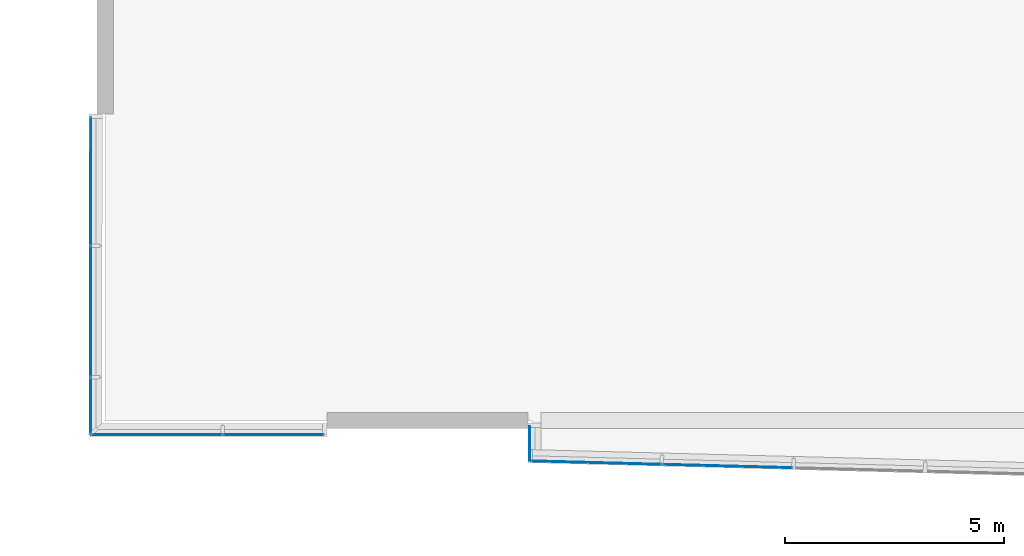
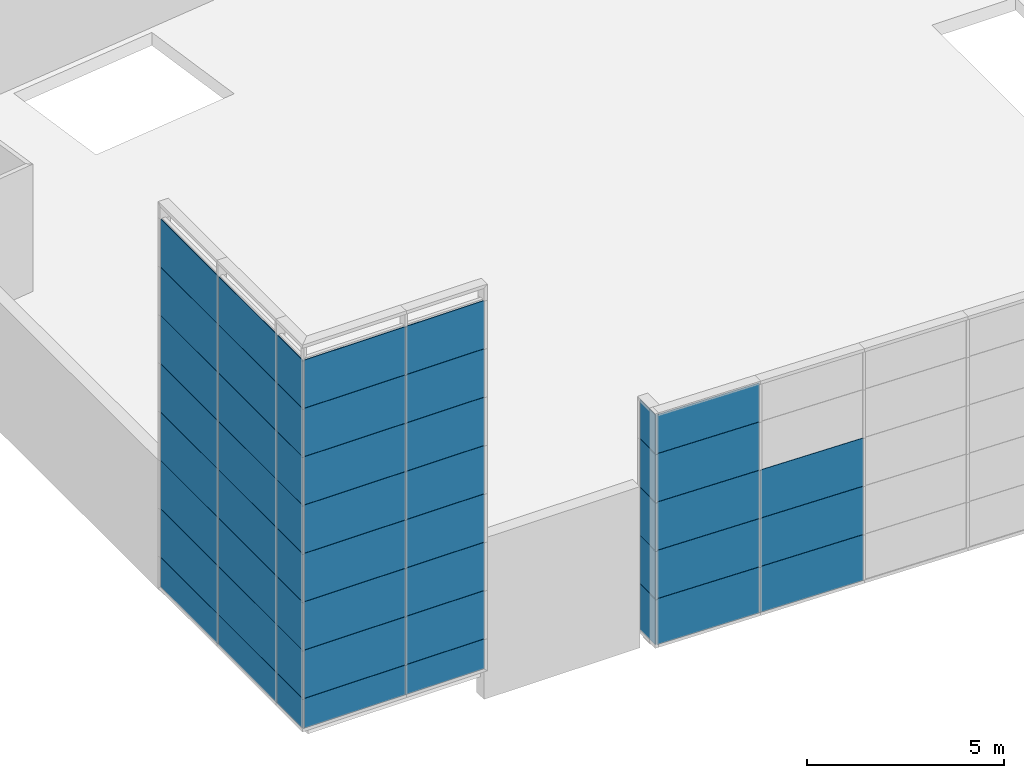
# One storey, part 14 of 27: 53 plates, 3 elements without a shape of their own.
"""IFC2X3 building model written with IfcOpenShell, lengths in metres."""

from ifc_helpers import new_model, entity, si_unit, converted_unit, money_unit, direction, frame, origin_with_axes, place, context, subcontext, project, spatial, polyline, outline, extrude, material, type_object, element, aggregate, save


model = new_model("IFC2X3")

# Units and contexts
model_context = context("Model", 3, precision=1e-05, world=origin_with_axes(), true_north=direction((0.0, 1.0)))
body_context = subcontext(model_context, "Body", "Model", "MODEL_VIEW")
ifc_project = project(units=[si_unit("LENGTHUNIT", "METRE"), si_unit("AREAUNIT", "SQUARE_METRE"), si_unit("VOLUMEUNIT", "CUBIC_METRE"), converted_unit("PLANEANGLEUNIT", "DEGREE", entity("IfcPlaneAngleMeasure", 0.0174532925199), si_unit("PLANEANGLEUNIT", "RADIAN"), dimensions=[0, 0, 0, 0, 0, 0, 0]), si_unit("SOLIDANGLEUNIT", "STERADIAN"), money_unit("EUR"), converted_unit("TIMEUNIT", "Year", entity("IfcTimeMeasure", 31556926.0), si_unit("TIMEUNIT", "SECOND"), dimensions=[0, 0, 0, 0, 0, 0, 0]), si_unit("MASSUNIT", "GRAM"), si_unit("THERMODYNAMICTEMPERATUREUNIT", "DEGREE_CELSIUS"), si_unit("LUMINOUSINTENSITYUNIT", "LUMEN")], contexts=[model_context])

# Site, building, storey
site_placement = place(None, origin_with_axes())
site = spatial("IfcSite", under=ifc_project, at=site_placement, Name="Undefined", CompositionType="ELEMENT")
building_placement = place(site_placement, origin_with_axes())
building = spatial("IfcBuilding", under=site, at=building_placement, Name="Undefined", CompositionType="ELEMENT")
storey_placement = place(building_placement, frame((0.0, 0.0, 5.4), z_axis=(0.0, 0.0, 1.0), x_axis=(1.0, 0.0, 0.0)))
storey = spatial("IfcBuildingStorey", under=building, at=storey_placement, Name="R+1", CompositionType="ELEMENT", Elevation=5.4)

# Curtain wall, plates
curtain_wall_type = type_object("IfcCurtainWallType", Name="Type de mur-rideau", PredefinedType="NOTDEFINED")
curtain_wall_1_placement = place(storey_placement, frame((9.49999998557, -0.66969262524, -0.55), z_axis=(0.0, 0.0, 1.0), x_axis=(1.0, 0.0, 0.0)))
curtain_wall_1 = element("IfcCurtainWall", 1, at=curtain_wall_1_placement, inside=storey, type_object=curtain_wall_type, Name="CurtainWall_01", ObjectType="CURTAIN WALL")
ifc_material = material(Name="Background 7019220")
plate_type_1 = type_object("IfcPlateType", Name="Panneau secondaire 782 x 1425 x 20", PredefinedType="NOTDEFINED")
plate_1_placement = place(curtain_wall_1_placement, frame((0.0, 0.0, 0.75), z_axis=(0.0, 0.0, 1.0), x_axis=(3.3865186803e-08, 1.0, 0.0)))
plate_1 = element("IfcPlate", 2, at=plate_1_placement, type_object=plate_type_1, material=ifc_material, Name="Panel-Dist-637", context=body_context, shape_type="SweptSolid", body=[
    extrude(outline(polyline([(0.07, 0.07), (0.852231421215, 0.07), (0.852231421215, 1.495), (0.07, 1.495), (0.07, 0.07)])), frame((0.426115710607, 0.0, -0.75), z_axis=(0.0, 1.0, 0.0), x_axis=(-1.0, 0.0, 0.0)), (0.0, 0.0, 1.0), 0.02),
])
plate_type_2 = type_object("IfcPlateType", Name="Panneau principal 782 x 1490 x 20", PredefinedType="NOTDEFINED")
plate_2_placement = place(curtain_wall_1_placement, frame((0.0, 0.0, 2.25), z_axis=(0.0, 0.0, 1.0), x_axis=(3.3865186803e-08, 1.0, 0.0)))
plate_2 = element("IfcPlate", 3, at=plate_2_placement, type_object=plate_type_2, material=ifc_material, Name="Panel-Main-139", context=body_context, shape_type="SweptSolid", body=[
    extrude(outline(polyline([(0.07, 0.005), (0.852231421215, 0.005), (0.852231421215, 1.495), (0.07, 1.495), (0.07, 0.005)])), frame((0.426115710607, 0.0, -0.75), z_axis=(0.0, 1.0, 0.0), x_axis=(-1.0, 0.0, 0.0)), (0.0, 0.0, 1.0), 0.02),
])
plate_3_placement = place(curtain_wall_1_placement, frame((0.0, 0.0, 5.25), z_axis=(0.0, 0.0, 1.0), x_axis=(3.3865186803e-08, 1.0, 0.0)))
plate_3 = element("IfcPlate", 4, at=plate_3_placement, type_object=plate_type_2, material=ifc_material, Name="Panel-Main-139", context=body_context, shape_type="SweptSolid", body=[
    extrude(outline(polyline([(0.07, 0.005), (0.852231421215, 0.005), (0.852231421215, 1.495), (0.07, 1.495), (0.07, 0.005)])), frame((0.426115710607, 0.0, -0.75), z_axis=(0.0, 1.0, 0.0), x_axis=(-1.0, 0.0, 0.0)), (0.0, 0.0, 1.0), 0.02),
])
plate_type_3 = type_object("IfcPlateType", Name="Panneau secondaire 782 x 1490 x 20", PredefinedType="NOTDEFINED")
plate_4_placement = place(curtain_wall_1_placement, frame((0.0, 0.0, 3.75), z_axis=(0.0, 0.0, 1.0), x_axis=(3.3865186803e-08, 1.0, 0.0)))
plate_4 = element("IfcPlate", 5, at=plate_4_placement, type_object=plate_type_3, material=ifc_material, Name="Panel-Dist-637", context=body_context, shape_type="SweptSolid", body=[
    extrude(outline(polyline([(0.07, 0.005), (0.852231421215, 0.005), (0.852231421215, 1.495), (0.07, 1.495), (0.07, 0.005)])), frame((0.426115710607, 0.0, -0.75), z_axis=(0.0, 1.0, 0.0), x_axis=(-1.0, 0.0, 0.0)), (0.0, 0.0, 1.0), 0.02),
])
plate_type_4 = type_object("IfcPlateType", Name="Panneau secondaire 782 x 1200 x 20", PredefinedType="NOTDEFINED")
plate_5_placement = place(curtain_wall_1_placement, frame((0.0, 1.11758816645e-08, 6.63741383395), z_axis=(0.0, 0.0, 1.0), x_axis=(3.3865186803e-08, 1.0, 0.0)))
plate_5 = element("IfcPlate", 6, at=plate_5_placement, type_object=plate_type_4, material=ifc_material, Name="Panel-Dist-648", context=body_context, shape_type="SweptSolid", body=[
    extrude(outline(polyline([(0.07, 0.005), (0.852231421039, 0.005), (0.852231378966, 1.20482766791), (0.07, 1.20482766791), (0.07, 0.005)])), frame((0.426115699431, 0.0, -0.637413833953), z_axis=(0.0, 1.0, 0.0), x_axis=(-1.0, 0.0, 0.0)), (0.0, 0.0, 1.0), 0.02),
])
aggregate(curtain_wall_1, [plate_1, plate_2, plate_4, plate_3, plate_5])

curtain_wall_2_placement = place(storey_placement, frame((-0.508840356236, 0.150119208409, 0.0), z_axis=(0.0, 0.0, 1.0), x_axis=(1.0, 0.0, 0.0)))
curtain_wall_2 = element("IfcCurtainWall", 7, at=curtain_wall_2_placement, inside=storey, type_object=curtain_wall_type, Name="CurtainWall_01", ObjectType="CURTAIN WALL")
plate_type_5 = type_object("IfcPlateType", Name="Panneau secondaire 2295 x 925 x 20", PredefinedType="NOTDEFINED")
plate_6_placement = place(curtain_wall_2_placement, frame((4.18696825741, -0.650119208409, 0.500000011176), z_axis=(0.0, 0.0, 1.0), x_axis=(-1.0, 0.0, 0.0)))
plate_6 = element("IfcPlate", 8, at=plate_6_placement, type_object=plate_type_5, material=ifc_material, Name="Panel-Dist-111", context=body_context, shape_type="SweptSolid", body=[
    extrude(outline(polyline([(0.01, 0.569999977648), (2.30499991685, 0.569999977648), (2.30499999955, 1.495), (0.01, 1.495), (0.01, 0.569999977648)])), frame((1.18749997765, 0.0, -0.999999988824), z_axis=(0.0, 1.0, 0.0), x_axis=(-1.0, 0.0, 0.0)), (0.0, 0.0, 1.0), 0.02),
])
plate_type_6 = type_object("IfcPlateType", Name="Panneau principal 2920 x 1490 x 20", PredefinedType="NOTDEFINED")
plate_7_placement = place(curtain_wall_2_placement, frame((0.00684685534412, 5.15011523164, 1.75000002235), z_axis=(0.0, 0.0, 1.0), x_axis=(0.00132945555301, 0.999999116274, 0.0)))
plate_7 = element("IfcPlate", 9, at=plate_7_placement, type_object=plate_type_6, material=ifc_material, Name="Panel-Main-111", context=body_context, shape_type="SweptSolid", body=[
    extrude(outline(polyline([(0.07, 0.005), (2.99, 0.005), (2.99, 1.495), (0.07, 1.495), (0.07, 0.005)])), frame((1.5, 0.0, -0.75), z_axis=(0.0, 1.0, 0.0), x_axis=(-1.0, 0.0, 0.0)), (0.0, 0.0, 1.0), 0.02),
])
plate_8_placement = place(curtain_wall_2_placement, frame((0.00684685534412, 5.15011523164, 4.75000002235), z_axis=(0.0, 0.0, 1.0), x_axis=(0.00132945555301, 0.999999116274, 0.0)))
plate_8 = element("IfcPlate", 10, at=plate_8_placement, type_object=plate_type_6, material=ifc_material, Name="Panel-Main-114", context=body_context, shape_type="SweptSolid", body=[
    extrude(outline(polyline([(0.07, 0.005), (2.99, 0.005), (2.99, 1.495), (0.07, 1.495), (0.07, 0.005)])), frame((1.5, 0.0, -0.75), z_axis=(0.0, 1.0, 0.0), x_axis=(-1.0, 0.0, 0.0)), (0.0, 0.0, 1.0), 0.02),
])
plate_9_placement = place(curtain_wall_2_placement, frame((0.00684685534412, 5.15011523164, 7.75000002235), z_axis=(0.0, 0.0, 1.0), x_axis=(0.00132945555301, 0.999999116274, 0.0)))
plate_9 = element("IfcPlate", 11, at=plate_9_placement, type_object=plate_type_6, material=ifc_material, Name="Panel-Main-115", context=body_context, shape_type="SweptSolid", body=[
    extrude(outline(polyline([(0.07, 0.005), (2.99, 0.005), (2.99, 1.495), (0.07, 1.495), (0.07, 0.005)])), frame((1.5, 0.0, -0.75), z_axis=(0.0, 1.0, 0.0), x_axis=(-1.0, 0.0, 0.0)), (0.0, 0.0, 1.0), 0.02),
])
plate_10_placement = place(curtain_wall_2_placement, frame((0.00684685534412, 5.15011523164, 10.7500000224), z_axis=(0.0, 0.0, 1.0), x_axis=(0.00132945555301, 0.999999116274, 0.0)))
plate_10 = element("IfcPlate", 12, at=plate_10_placement, type_object=plate_type_6, material=ifc_material, Name="Panel-Main-116", context=body_context, shape_type="SweptSolid", body=[
    extrude(outline(polyline([(0.07, 0.005), (2.99, 0.005), (2.99, 1.495), (0.07, 1.495), (0.07, 0.005)])), frame((1.5, 0.0, -0.75), z_axis=(0.0, 1.0, 0.0), x_axis=(-1.0, 0.0, 0.0)), (0.0, 0.0, 1.0), 0.02),
])
plate_type_7 = type_object("IfcPlateType", Name="Panneau secondaire 2980 x 1490 x 20", PredefinedType="NOTDEFINED")
plate_11_placement = place(curtain_wall_2_placement, frame((0.00285848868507, 2.15011788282, 1.75000002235), z_axis=(0.0, 0.0, 1.0), x_axis=(0.00132945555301, 0.999999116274, 0.0)))
plate_11 = element("IfcPlate", 13, at=plate_11_placement, type_object=plate_type_7, material=ifc_material, Name="Panel-Dist-103", context=body_context, shape_type="SweptSolid", body=[
    extrude(outline(polyline([(0.01, 0.005), (2.99, 0.005), (2.99, 1.495), (0.01, 1.495), (0.01, 0.005)])), frame((1.5, 0.0, -0.75), z_axis=(0.0, 1.0, 0.0), x_axis=(-1.0, 0.0, 0.0)), (0.0, 0.0, 1.0), 0.02),
])
plate_12_placement = place(curtain_wall_2_placement, frame((0.00285848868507, 2.15011788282, 4.75000002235), z_axis=(0.0, 0.0, 1.0), x_axis=(0.00132945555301, 0.999999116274, 0.0)))
plate_12 = element("IfcPlate", 14, at=plate_12_placement, type_object=plate_type_7, material=ifc_material, Name="Panel-Dist-125", context=body_context, shape_type="SweptSolid", body=[
    extrude(outline(polyline([(0.01, 0.005), (2.99, 0.005), (2.99, 1.495), (0.01, 1.495), (0.01, 0.005)])), frame((1.5, 0.0, -0.75), z_axis=(0.0, 1.0, 0.0), x_axis=(-1.0, 0.0, 0.0)), (0.0, 0.0, 1.0), 0.02),
])
plate_13_placement = place(curtain_wall_2_placement, frame((0.00285848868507, 2.15011788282, 6.25000002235), z_axis=(0.0, 0.0, 1.0), x_axis=(0.00132945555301, 0.999999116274, 0.0)))
plate_13 = element("IfcPlate", 15, at=plate_13_placement, type_object=plate_type_7, material=ifc_material, Name="Panel-Dist-126", context=body_context, shape_type="SweptSolid", body=[
    extrude(outline(polyline([(0.01, 0.005), (2.99, 0.005), (2.99, 1.495), (0.01, 1.495), (0.01, 0.005)])), frame((1.5, 0.0, -0.75), z_axis=(0.0, 1.0, 0.0), x_axis=(-1.0, 0.0, 0.0)), (0.0, 0.0, 1.0), 0.02),
])
plate_14_placement = place(curtain_wall_2_placement, frame((0.00285848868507, 2.15011788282, 7.75000002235), z_axis=(0.0, 0.0, 1.0), x_axis=(0.00132945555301, 0.999999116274, 0.0)))
plate_14 = element("IfcPlate", 16, at=plate_14_placement, type_object=plate_type_7, material=ifc_material, Name="Panel-Dist-127", context=body_context, shape_type="SweptSolid", body=[
    extrude(outline(polyline([(0.01, 0.005), (2.99, 0.005), (2.99, 1.495), (0.01, 1.495), (0.01, 0.005)])), frame((1.5, 0.0, -0.75), z_axis=(0.0, 1.0, 0.0), x_axis=(-1.0, 0.0, 0.0)), (0.0, 0.0, 1.0), 0.02),
])
plate_15_placement = place(curtain_wall_2_placement, frame((0.00285848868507, 2.15011788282, 9.25000002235), z_axis=(0.0, 0.0, 1.0), x_axis=(0.00132945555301, 0.999999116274, 0.0)))
plate_15 = element("IfcPlate", 17, at=plate_15_placement, type_object=plate_type_7, material=ifc_material, Name="Panel-Dist-128", context=body_context, shape_type="SweptSolid", body=[
    extrude(outline(polyline([(0.01, 0.005), (2.99, 0.005), (2.99, 1.495), (0.01, 1.495), (0.01, 0.005)])), frame((1.5, 0.0, -0.75), z_axis=(0.0, 1.0, 0.0), x_axis=(-1.0, 0.0, 0.0)), (0.0, 0.0, 1.0), 0.02),
])
plate_16_placement = place(curtain_wall_2_placement, frame((0.00285848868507, 2.15011788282, 10.7500000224), z_axis=(0.0, 0.0, 1.0), x_axis=(0.00132945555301, 0.999999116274, 0.0)))
plate_16 = element("IfcPlate", 18, at=plate_16_placement, type_object=plate_type_7, material=ifc_material, Name="Panel-Dist-129", context=body_context, shape_type="SweptSolid", body=[
    extrude(outline(polyline([(0.01, 0.005), (2.99, 0.005), (2.99, 1.495), (0.01, 1.495), (0.01, 0.005)])), frame((1.5, 0.0, -0.75), z_axis=(0.0, 1.0, 0.0), x_axis=(-1.0, 0.0, 0.0)), (0.0, 0.0, 1.0), 0.02),
])
plate_17_placement = place(curtain_wall_2_placement, frame((0.00285848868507, 2.15011788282, 3.25000002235), z_axis=(0.0, 0.0, 1.0), x_axis=(0.00132945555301, 0.999999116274, 0.0)))
plate_17 = element("IfcPlate", 19, at=plate_17_placement, type_object=plate_type_7, material=ifc_material, Name="Panel-Dist-120", context=body_context, shape_type="SweptSolid", body=[
    extrude(outline(polyline([(0.01, 0.005), (2.99, 0.005), (2.99, 1.495), (0.01, 1.495), (0.01, 0.005)])), frame((1.5, 0.0, -0.75), z_axis=(0.0, 1.0, 0.0), x_axis=(-1.0, 0.0, 0.0)), (0.0, 0.0, 1.0), 0.02),
])
plate_18_placement = place(curtain_wall_2_placement, frame((1.4993019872, -0.650119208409, 6.25000002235), z_axis=(0.0, 0.0, 1.0), x_axis=(-1.0, 0.0, 0.0)))
plate_18 = element("IfcPlate", 20, at=plate_18_placement, type_object=plate_type_7, material=ifc_material, Name="Panel-Dist-138", context=body_context, shape_type="SweptSolid", body=[
    extrude(outline(polyline([(0.01, 0.005), (2.99033258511, 0.005), (2.99033258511, 1.495), (0.01, 1.495), (0.01, 0.005)])), frame((1.50016629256, 0.0, -0.75), z_axis=(0.0, 1.0, 0.0), x_axis=(-1.0, 0.0, 0.0)), (0.0, 0.0, 1.0), 0.02),
])
plate_19_placement = place(curtain_wall_2_placement, frame((1.4993019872, -0.650119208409, 9.25000002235), z_axis=(0.0, 0.0, 1.0), x_axis=(-1.0, 0.0, 0.0)))
plate_19 = element("IfcPlate", 21, at=plate_19_placement, type_object=plate_type_7, material=ifc_material, Name="Panel-Dist-139", context=body_context, shape_type="SweptSolid", body=[
    extrude(outline(polyline([(0.01, 0.005), (2.99033258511, 0.005), (2.99033258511, 1.495), (0.01, 1.495), (0.01, 0.005)])), frame((1.50016629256, 0.0, -0.75), z_axis=(0.0, 1.0, 0.0), x_axis=(-1.0, 0.0, 0.0)), (0.0, 0.0, 1.0), 0.02),
])
plate_20_placement = place(curtain_wall_2_placement, frame((1.4993019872, -0.650119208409, 3.25000002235), z_axis=(0.0, 0.0, 1.0), x_axis=(-1.0, 0.0, 0.0)))
plate_20 = element("IfcPlate", 22, at=plate_20_placement, type_object=plate_type_7, material=ifc_material, Name="Panel-Dist-134", context=body_context, shape_type="SweptSolid", body=[
    extrude(outline(polyline([(0.01, 0.005), (2.99033258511, 0.005), (2.99033258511, 1.495), (0.01, 1.495), (0.01, 0.005)])), frame((1.50016629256, 0.0, -0.75), z_axis=(0.0, 1.0, 0.0), x_axis=(-1.0, 0.0, 0.0)), (0.0, 0.0, 1.0), 0.02),
])

curtain_wall_3_placement = place(storey_placement, frame((10.9994920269, -1.13484133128, -0.55), z_axis=(0.0, 0.0, 1.0), x_axis=(1.0, 0.0, 0.0)))
curtain_wall_3 = element("IfcCurtainWall", 23, at=curtain_wall_3_placement, inside=storey, type_object=curtain_wall_type, Name="CurtainWall_01", ObjectType="CURTAIN WALL")
plate_21_placement = place(curtain_wall_3_placement, frame((2.99898411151, -0.0780659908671, 2.25), z_axis=(0.0, 0.0, 1.0), x_axis=(-0.999661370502, 0.0260219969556, 0.0)))
plate_21 = element("IfcPlate", 24, at=plate_21_placement, type_object=plate_type_7, material=ifc_material, Name="Panel-Dist-569", context=body_context, shape_type="SweptSolid", body=[
    extrude(outline(polyline([(0.01, 0.005), (2.99, 0.005), (2.99, 1.495), (0.01, 1.495), (0.01, 0.005)])), frame((1.5, 0.0, -0.75), z_axis=(0.0, 1.0, 0.0), x_axis=(-1.0, 0.0, 0.0)), (0.0, 0.0, 1.0), 0.02),
])
plate_22_placement = place(curtain_wall_3_placement, frame((2.99898411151, -0.0780659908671, 3.75), z_axis=(0.0, 0.0, 1.0), x_axis=(-0.999661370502, 0.0260219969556, 0.0)))
plate_22 = element("IfcPlate", 25, at=plate_22_placement, type_object=plate_type_7, material=ifc_material, Name="Panel-Dist-569", context=body_context, shape_type="SweptSolid", body=[
    extrude(outline(polyline([(0.01, 0.005), (2.99, 0.005), (2.99, 1.495), (0.01, 1.495), (0.01, 0.005)])), frame((1.5, 0.0, -0.75), z_axis=(0.0, 1.0, 0.0), x_axis=(-1.0, 0.0, 0.0)), (0.0, 0.0, 1.0), 0.02),
])

# Plate
plate_type_8 = type_object("IfcPlateType", Name="Panneau principal 1280 x 1490 x 20", PredefinedType="NOTDEFINED")
plate_23_placement = place(curtain_wall_2_placement, frame((0.0, 0.0, 1.75000002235), z_axis=(0.0, 0.0, 1.0), x_axis=(0.00132945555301, 0.999999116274, 0.0)))
plate_23 = element("IfcPlate", 26, at=plate_23_placement, type_object=plate_type_8, material=ifc_material, Name="Panel-Main-112", context=body_context, shape_type="SweptSolid", body=[
    extrude(outline(polyline([(0.01, 0.005), (1.29023956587, 0.00500000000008), (1.29023956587, 1.495), (0.01, 1.495), (0.01, 0.005)])), frame((0.650119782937, 0.0, -0.75), z_axis=(0.0, 1.0, 0.0), x_axis=(-1.0, 0.0, 0.0)), (0.0, 0.0, 1.0), 0.02),
])

plate_24_placement = place(curtain_wall_2_placement, frame((0.0, 0.0, 4.75000002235), z_axis=(0.0, 0.0, 1.0), x_axis=(0.00132945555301, 0.999999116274, 0.0)))
plate_24 = element("IfcPlate", 27, at=plate_24_placement, type_object=plate_type_8, material=ifc_material, Name="Panel-Main-117", context=body_context, shape_type="SweptSolid", body=[
    extrude(outline(polyline([(0.01, 0.005), (1.29023956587, 0.00500000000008), (1.29023956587, 1.495), (0.01, 1.495), (0.01, 0.005)])), frame((0.650119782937, 0.0, -0.75), z_axis=(0.0, 1.0, 0.0), x_axis=(-1.0, 0.0, 0.0)), (0.0, 0.0, 1.0), 0.02),
])

plate_25_placement = place(curtain_wall_2_placement, frame((0.0, 0.0, 7.75000002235), z_axis=(0.0, 0.0, 1.0), x_axis=(0.00132945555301, 0.999999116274, 0.0)))
plate_25 = element("IfcPlate", 28, at=plate_25_placement, type_object=plate_type_8, material=ifc_material, Name="Panel-Main-118", context=body_context, shape_type="SweptSolid", body=[
    extrude(outline(polyline([(0.01, 0.005), (1.29023956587, 0.00500000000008), (1.29023956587, 1.495), (0.01, 1.495), (0.01, 0.005)])), frame((0.650119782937, 0.0, -0.75), z_axis=(0.0, 1.0, 0.0), x_axis=(-1.0, 0.0, 0.0)), (0.0, 0.0, 1.0), 0.02),
])

plate_26_placement = place(curtain_wall_2_placement, frame((0.0, 0.0, 10.7500000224), z_axis=(0.0, 0.0, 1.0), x_axis=(0.00132945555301, 0.999999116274, 0.0)))
plate_26 = element("IfcPlate", 29, at=plate_26_placement, type_object=plate_type_8, material=ifc_material, Name="Panel-Main-119", context=body_context, shape_type="SweptSolid", body=[
    extrude(outline(polyline([(0.01, 0.005), (1.29023956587, 0.00500000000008), (1.29023956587, 1.495), (0.01, 1.495), (0.01, 0.005)])), frame((0.650119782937, 0.0, -0.75), z_axis=(0.0, 1.0, 0.0), x_axis=(-1.0, 0.0, 0.0)), (0.0, 0.0, 1.0), 0.02),
])

plate_type_9 = type_object("IfcPlateType", Name="Panneau principal 2980 x 1490 x 20", PredefinedType="NOTDEFINED")
plate_27_placement = place(curtain_wall_2_placement, frame((1.4993019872, -0.650119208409, 1.75000002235), z_axis=(0.0, 0.0, 1.0), x_axis=(-1.0, 0.0, 0.0)))
plate_27 = element("IfcPlate", 30, at=plate_27_placement, type_object=plate_type_9, material=ifc_material, Name="Panel-Main-113", context=body_context, shape_type="SweptSolid", body=[
    extrude(outline(polyline([(0.01, 0.005), (2.99033258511, 0.005), (2.99033258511, 1.495), (0.01, 1.495), (0.01, 0.005)])), frame((1.50016629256, 0.0, -0.75), z_axis=(0.0, 1.0, 0.0), x_axis=(-1.0, 0.0, 0.0)), (0.0, 0.0, 1.0), 0.02),
])

plate_28_placement = place(curtain_wall_2_placement, frame((1.4993019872, -0.650119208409, 4.75000002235), z_axis=(0.0, 0.0, 1.0), x_axis=(-1.0, 0.0, 0.0)))
plate_28 = element("IfcPlate", 31, at=plate_28_placement, type_object=plate_type_9, material=ifc_material, Name="Panel-Main-120", context=body_context, shape_type="SweptSolid", body=[
    extrude(outline(polyline([(0.01, 0.005), (2.99033258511, 0.005), (2.99033258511, 1.495), (0.01, 1.495), (0.01, 0.005)])), frame((1.50016629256, 0.0, -0.75), z_axis=(0.0, 1.0, 0.0), x_axis=(-1.0, 0.0, 0.0)), (0.0, 0.0, 1.0), 0.02),
])

plate_29_placement = place(curtain_wall_2_placement, frame((1.4993019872, -0.650119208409, 7.75000002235), z_axis=(0.0, 0.0, 1.0), x_axis=(-1.0, 0.0, 0.0)))
plate_29 = element("IfcPlate", 32, at=plate_29_placement, type_object=plate_type_9, material=ifc_material, Name="Panel-Main-121", context=body_context, shape_type="SweptSolid", body=[
    extrude(outline(polyline([(0.01, 0.005), (2.99033258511, 0.005), (2.99033258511, 1.495), (0.01, 1.495), (0.01, 0.005)])), frame((1.50016629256, 0.0, -0.75), z_axis=(0.0, 1.0, 0.0), x_axis=(-1.0, 0.0, 0.0)), (0.0, 0.0, 1.0), 0.02),
])

plate_30_placement = place(curtain_wall_2_placement, frame((1.4993019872, -0.650119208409, 10.7500000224), z_axis=(0.0, 0.0, 1.0), x_axis=(-1.0, 0.0, 0.0)))
plate_30 = element("IfcPlate", 33, at=plate_30_placement, type_object=plate_type_9, material=ifc_material, Name="Panel-Main-122", context=body_context, shape_type="SweptSolid", body=[
    extrude(outline(polyline([(0.01, 0.005), (2.99033258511, 0.005), (2.99033258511, 1.495), (0.01, 1.495), (0.01, 0.005)])), frame((1.50016629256, 0.0, -0.75), z_axis=(0.0, 1.0, 0.0), x_axis=(-1.0, 0.0, 0.0)), (0.0, 0.0, 1.0), 0.02),
])

plate_type_10 = type_object("IfcPlateType", Name="Panneau secondaire 2980 x 925 x 20", PredefinedType="NOTDEFINED")
plate_31_placement = place(curtain_wall_2_placement, frame((1.4993019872, -0.650119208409, 0.500000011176), z_axis=(0.0, 0.0, 1.0), x_axis=(-1.0, 0.0, 0.0)))
plate_31 = element("IfcPlate", 34, at=plate_31_placement, type_object=plate_type_10, material=ifc_material, Name="Panel-Dist-110", context=body_context, shape_type="SweptSolid", body=[
    extrude(outline(polyline([(2.99033258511, 0.569999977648), (2.99033258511, 1.495), (0.01, 1.495), (0.01, 0.569999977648), (2.99033258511, 0.569999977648)])), frame((1.50016629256, 0.0, -0.999999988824), z_axis=(0.0, 1.0, 0.0), x_axis=(-1.0, 0.0, 0.0)), (0.0, 0.0, 1.0), 0.02),
])

plate_32_placement = place(curtain_wall_2_placement, frame((0.00285848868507, 2.15011788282, 0.500000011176), z_axis=(0.0, 0.0, 1.0), x_axis=(0.00132945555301, 0.999999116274, 0.0)))
plate_32 = element("IfcPlate", 35, at=plate_32_placement, type_object=plate_type_10, material=ifc_material, Name="Panel-Dist-101", context=body_context, shape_type="SweptSolid", body=[
    extrude(outline(polyline([(0.01, 0.569999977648), (2.99, 0.569999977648), (2.99, 1.495), (0.01, 1.495), (0.01, 0.569999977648)])), frame((1.5, 0.0, -0.999999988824), z_axis=(0.0, 1.0, 0.0), x_axis=(-1.0, 0.0, 0.0)), (0.0, 0.0, 1.0), 0.02),
])

plate_type_11 = type_object("IfcPlateType", Name="Panneau secondaire 2295 x 1490 x 20", PredefinedType="NOTDEFINED")
plate_33_placement = place(curtain_wall_2_placement, frame((4.18696827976, -0.650119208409, 1.75000002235), z_axis=(0.0, 0.0, 1.0), x_axis=(-1.0, 0.0, 0.0)))
plate_33 = element("IfcPlate", 36, at=plate_33_placement, type_object=plate_type_11, material=ifc_material, Name="Panel-Dist-112", context=body_context, shape_type="SweptSolid", body=[
    extrude(outline(polyline([(0.01, 0.005), (2.305, 0.005), (2.305, 1.495), (0.01, 1.495), (0.01, 0.005)])), frame((1.1875, 0.0, -0.75), z_axis=(0.0, 1.0, 0.0), x_axis=(-1.0, 0.0, 0.0)), (0.0, 0.0, 1.0), 0.02),
])

plate_34_placement = place(curtain_wall_2_placement, frame((4.18696822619, -0.650119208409, 10.7500000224), z_axis=(0.0, 0.0, 1.0), x_axis=(-1.0, 0.0, 0.0)))
plate_34 = element("IfcPlate", 37, at=plate_34_placement, type_object=plate_type_11, material=ifc_material, Name="Panel-Dist-145", context=body_context, shape_type="SweptSolid", body=[
    extrude(outline(polyline([(0.01, 0.005), (2.30499987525, 0.005), (2.30499991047, 1.495), (0.01, 1.495), (0.01, 0.005)])), frame((1.18749994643, 0.0, -0.75), z_axis=(0.0, 1.0, 0.0), x_axis=(-1.0, 0.0, 0.0)), (0.0, 0.0, 1.0), 0.02),
])

plate_35_placement = place(curtain_wall_2_placement, frame((4.18696824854, -0.650119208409, 3.25000002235), z_axis=(0.0, 0.0, 1.0), x_axis=(-1.0, 0.0, 0.0)))
plate_35 = element("IfcPlate", 38, at=plate_35_placement, type_object=plate_type_11, material=ifc_material, Name="Panel-Dist-135", context=body_context, shape_type="SweptSolid", body=[
    extrude(outline(polyline([(0.01, 0.005), (2.30499999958, 0.005), (2.30499987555, 1.495), (0.01, 1.495), (0.01, 0.005)])), frame((1.18749996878, 0.0, -0.75), z_axis=(0.0, 1.0, 0.0), x_axis=(-1.0, 0.0, 0.0)), (0.0, 0.0, 1.0), 0.02),
])

plate_36_placement = place(curtain_wall_2_placement, frame((4.18696821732, -0.650119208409, 4.75000002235), z_axis=(0.0, 0.0, 1.0), x_axis=(-1.0, 0.0, 0.0)))
plate_36 = element("IfcPlate", 39, at=plate_36_placement, type_object=plate_type_11, material=ifc_material, Name="Panel-Dist-141", context=body_context, shape_type="SweptSolid", body=[
    extrude(outline(polyline([(0.01, 0.005), (2.30499987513, 0.005), (2.30499987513, 1.495), (0.01, 1.495), (0.01, 0.005)])), frame((1.18749993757, 0.0, -0.75), z_axis=(0.0, 1.0, 0.0), x_axis=(-1.0, 0.0, 0.0)), (0.0, 0.0, 1.0), 0.02),
])

plate_37_placement = place(curtain_wall_2_placement, frame((4.18696821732, -0.650119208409, 6.25000002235), z_axis=(0.0, 0.0, 1.0), x_axis=(-1.0, 0.0, 0.0)))
plate_37 = element("IfcPlate", 40, at=plate_37_placement, type_object=plate_type_11, material=ifc_material, Name="Panel-Dist-142", context=body_context, shape_type="SweptSolid", body=[
    extrude(outline(polyline([(0.01, 0.005), (2.30499987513, 0.005), (2.30499987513, 1.495), (0.01, 1.495), (0.01, 0.005)])), frame((1.18749993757, 0.0, -0.75), z_axis=(0.0, 1.0, 0.0), x_axis=(-1.0, 0.0, 0.0)), (0.0, 0.0, 1.0), 0.02),
])

plate_38_placement = place(curtain_wall_2_placement, frame((4.18696821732, -0.650119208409, 7.75000002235), z_axis=(0.0, 0.0, 1.0), x_axis=(-1.0, 0.0, 0.0)))
plate_38 = element("IfcPlate", 41, at=plate_38_placement, type_object=plate_type_11, material=ifc_material, Name="Panel-Dist-143", context=body_context, shape_type="SweptSolid", body=[
    extrude(outline(polyline([(0.01, 0.005), (2.30499987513, 0.005), (2.30499987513, 1.495), (0.01, 1.495), (0.01, 0.005)])), frame((1.18749993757, 0.0, -0.75), z_axis=(0.0, 1.0, 0.0), x_axis=(-1.0, 0.0, 0.0)), (0.0, 0.0, 1.0), 0.02),
])

plate_39_placement = place(curtain_wall_2_placement, frame((4.18696821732, -0.650119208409, 9.25000002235), z_axis=(0.0, 0.0, 1.0), x_axis=(-1.0, 0.0, 0.0)))
plate_39 = element("IfcPlate", 42, at=plate_39_placement, type_object=plate_type_11, material=ifc_material, Name="Panel-Dist-144", context=body_context, shape_type="SweptSolid", body=[
    extrude(outline(polyline([(0.01, 0.005), (2.30499987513, 0.005), (2.30499987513, 1.495), (0.01, 1.495), (0.01, 0.005)])), frame((1.18749993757, 0.0, -0.75), z_axis=(0.0, 1.0, 0.0), x_axis=(-1.0, 0.0, 0.0)), (0.0, 0.0, 1.0), 0.02),
])

plate_type_12 = type_object("IfcPlateType", Name="Panneau secondaire 2920 x 1490 x 20", PredefinedType="NOTDEFINED")
plate_40_placement = place(curtain_wall_2_placement, frame((0.00684685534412, 5.15011523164, 6.25000002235), z_axis=(0.0, 0.0, 1.0), x_axis=(0.00132945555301, 0.999999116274, 0.0)))
plate_40 = element("IfcPlate", 43, at=plate_40_placement, type_object=plate_type_12, material=ifc_material, Name="Panel-Dist-122", context=body_context, shape_type="SweptSolid", body=[
    extrude(outline(polyline([(0.07, 0.005), (2.99, 0.005), (2.99, 1.495), (0.07, 1.495), (0.07, 0.005)])), frame((1.5, 0.0, -0.75), z_axis=(0.0, 1.0, 0.0), x_axis=(-1.0, 0.0, 0.0)), (0.0, 0.0, 1.0), 0.02),
])

plate_41_placement = place(curtain_wall_2_placement, frame((0.00684685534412, 5.15011523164, 9.25000002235), z_axis=(0.0, 0.0, 1.0), x_axis=(0.00132945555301, 0.999999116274, 0.0)))
plate_41 = element("IfcPlate", 44, at=plate_41_placement, type_object=plate_type_12, material=ifc_material, Name="Panel-Dist-123", context=body_context, shape_type="SweptSolid", body=[
    extrude(outline(polyline([(0.07, 0.005), (2.99, 0.005), (2.99, 1.495), (0.07, 1.495), (0.07, 0.005)])), frame((1.5, 0.0, -0.75), z_axis=(0.0, 1.0, 0.0), x_axis=(-1.0, 0.0, 0.0)), (0.0, 0.0, 1.0), 0.02),
])

plate_42_placement = place(curtain_wall_2_placement, frame((0.00684685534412, 5.15011523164, 3.25000002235), z_axis=(0.0, 0.0, 1.0), x_axis=(0.00132945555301, 0.999999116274, 0.0)))
plate_42 = element("IfcPlate", 45, at=plate_42_placement, type_object=plate_type_12, material=ifc_material, Name="Panel-Dist-119", context=body_context, shape_type="SweptSolid", body=[
    extrude(outline(polyline([(0.07, 0.005), (2.99, 0.005), (2.99, 1.495), (0.07, 1.495), (0.07, 0.005)])), frame((1.5, 0.0, -0.75), z_axis=(0.0, 1.0, 0.0), x_axis=(-1.0, 0.0, 0.0)), (0.0, 0.0, 1.0), 0.02),
])

plate_type_13 = type_object("IfcPlateType", Name="Panneau secondaire 1280 x 1490 x 20", PredefinedType="NOTDEFINED")
plate_43_placement = place(curtain_wall_2_placement, frame((0.0, 0.0, 6.25000002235), z_axis=(0.0, 0.0, 1.0), x_axis=(0.00132945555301, 0.999999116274, 0.0)))
plate_43 = element("IfcPlate", 46, at=plate_43_placement, type_object=plate_type_13, material=ifc_material, Name="Panel-Dist-131", context=body_context, shape_type="SweptSolid", body=[
    extrude(outline(polyline([(0.01, 0.005), (1.29023956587, 0.00500000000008), (1.29023956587, 1.495), (0.01, 1.495), (0.01, 0.005)])), frame((0.650119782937, 0.0, -0.75), z_axis=(0.0, 1.0, 0.0), x_axis=(-1.0, 0.0, 0.0)), (0.0, 0.0, 1.0), 0.02),
])

plate_44_placement = place(curtain_wall_2_placement, frame((0.0, 0.0, 9.25000002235), z_axis=(0.0, 0.0, 1.0), x_axis=(0.00132945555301, 0.999999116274, 0.0)))
plate_44 = element("IfcPlate", 47, at=plate_44_placement, type_object=plate_type_13, material=ifc_material, Name="Panel-Dist-132", context=body_context, shape_type="SweptSolid", body=[
    extrude(outline(polyline([(0.01, 0.005), (1.29023956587, 0.00500000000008), (1.29023956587, 1.495), (0.01, 1.495), (0.01, 0.005)])), frame((0.650119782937, 0.0, -0.75), z_axis=(0.0, 1.0, 0.0), x_axis=(-1.0, 0.0, 0.0)), (0.0, 0.0, 1.0), 0.02),
])

plate_45_placement = place(curtain_wall_2_placement, frame((0.0, 0.0, 3.25000002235), z_axis=(0.0, 0.0, 1.0), x_axis=(0.00132945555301, 0.999999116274, 0.0)))
plate_45 = element("IfcPlate", 48, at=plate_45_placement, type_object=plate_type_13, material=ifc_material, Name="Panel-Dist-121", context=body_context, shape_type="SweptSolid", body=[
    extrude(outline(polyline([(0.01, 0.005), (1.29023956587, 0.00500000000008), (1.29023956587, 1.495), (0.01, 1.495), (0.01, 0.005)])), frame((0.650119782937, 0.0, -0.75), z_axis=(0.0, 1.0, 0.0), x_axis=(-1.0, 0.0, 0.0)), (0.0, 0.0, 1.0), 0.02),
])

plate_type_14 = type_object("IfcPlateType", Name="Panneau secondaire 1280 x 925 x 20", PredefinedType="NOTDEFINED")
plate_46_placement = place(curtain_wall_2_placement, frame((0.0, 0.0, 0.500000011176), z_axis=(0.0, 0.0, 1.0), x_axis=(0.00132945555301, 0.999999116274, 0.0)))
plate_46 = element("IfcPlate", 49, at=plate_46_placement, type_object=plate_type_14, material=ifc_material, Name="Panel-Dist-102", context=body_context, shape_type="SweptSolid", body=[
    extrude(outline(polyline([(0.01, 0.569999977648), (1.29023956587, 0.569999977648), (1.29023956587, 1.495), (0.01, 1.495), (0.01, 0.569999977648)])), frame((0.650119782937, 0.0, -0.999999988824), z_axis=(0.0, 1.0, 0.0), x_axis=(-1.0, 0.0, 0.0)), (0.0, 0.0, 1.0), 0.02),
])

plate_type_15 = type_object("IfcPlateType", Name="Panneau secondaire 2920 x 925 x 20", PredefinedType="NOTDEFINED")
plate_47_placement = place(curtain_wall_2_placement, frame((0.00684685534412, 5.15011523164, 0.500000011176), z_axis=(0.0, 0.0, 1.0), x_axis=(0.00132945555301, 0.999999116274, 0.0)))
plate_47 = element("IfcPlate", 50, at=plate_47_placement, type_object=plate_type_15, material=ifc_material, Name="Panel-Dist-100", context=body_context, shape_type="SweptSolid", body=[
    extrude(outline(polyline([(2.99, 0.569999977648), (2.99, 1.495), (0.07, 1.495), (0.07, 0.569999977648), (2.99, 0.569999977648)])), frame((1.5, 0.0, -0.999999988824), z_axis=(0.0, 1.0, 0.0), x_axis=(-1.0, 0.0, 0.0)), (0.0, 0.0, 1.0), 0.02),
])

aggregate(curtain_wall_2, [plate_6, plate_7, plate_11, plate_23, plate_27, plate_31, plate_33, plate_8, plate_40, plate_9, plate_41, plate_10, plate_12, plate_13, plate_14, plate_15, plate_16, plate_24, plate_43, plate_25, plate_44, plate_26, plate_42, plate_17, plate_45, plate_34, plate_28, plate_18, plate_29, plate_19, plate_30, plate_20, plate_35, plate_36, plate_37, plate_38, plate_39, plate_46, plate_32, plate_47])

plate_type_16 = type_object("IfcPlateType", Name="Panneau secondaire 2980 x 1425 x 20", PredefinedType="NOTDEFINED")
plate_48_placement = place(curtain_wall_3_placement, frame((2.99898411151, -0.0780659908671, 0.75), z_axis=(0.0, 0.0, 1.0), x_axis=(-0.999661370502, 0.0260219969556, 0.0)))
plate_48 = element("IfcPlate", 51, at=plate_48_placement, type_object=plate_type_16, material=ifc_material, Name="Panel-Dist-569", context=body_context, shape_type="SweptSolid", body=[
    extrude(outline(polyline([(0.01, 0.07), (2.99, 0.07), (2.99, 1.495), (0.01, 1.495), (0.01, 0.07)])), frame((1.5, 0.0, -0.75), z_axis=(0.0, 1.0, 0.0), x_axis=(-1.0, 0.0, 0.0)), (0.0, 0.0, 1.0), 0.02),
])

plate_type_17 = type_object("IfcPlateType", Name="Panneau secondaire 2970 x 1425 x 20", PredefinedType="NOTDEFINED")
plate_49_placement = place(curtain_wall_3_placement, frame((0.0, 0.0, 0.75), z_axis=(0.0, 0.0, 1.0), x_axis=(-0.999661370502, 0.0260219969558, 0.0)))
plate_49 = element("IfcPlate", 52, at=plate_49_placement, type_object=plate_type_17, material=ifc_material, Name="Panel-Dist-569", context=body_context, shape_type="SweptSolid", body=[
    extrude(outline(polyline([(0.02, 0.07), (2.99, 0.07), (2.99, 1.495), (0.02, 1.495), (0.02, 0.07)])), frame((1.5, 0.0, -0.75), z_axis=(0.0, 1.0, 0.0), x_axis=(-1.0, 0.0, 0.0)), (0.0, 0.0, 1.0), 0.02),
])

plate_type_18 = type_object("IfcPlateType", Name="Panneau principal 2970 x 1490 x 20", PredefinedType="NOTDEFINED")
plate_50_placement = place(curtain_wall_3_placement, frame((0.0, 0.0, 2.25), z_axis=(0.0, 0.0, 1.0), x_axis=(-0.999661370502, 0.0260219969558, 0.0)))
plate_50 = element("IfcPlate", 53, at=plate_50_placement, type_object=plate_type_18, material=ifc_material, Name="Panel-Main-131", context=body_context, shape_type="SweptSolid", body=[
    extrude(outline(polyline([(0.02, 0.005), (2.99, 0.005), (2.99, 1.495), (0.02, 1.495), (0.02, 0.005)])), frame((1.5, 0.0, -0.75), z_axis=(0.0, 1.0, 0.0), x_axis=(-1.0, 0.0, 0.0)), (0.0, 0.0, 1.0), 0.02),
])

plate_51_placement = place(curtain_wall_3_placement, frame((0.0, 0.0, 5.25), z_axis=(0.0, 0.0, 1.0), x_axis=(-0.999661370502, 0.0260219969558, 0.0)))
plate_51 = element("IfcPlate", 54, at=plate_51_placement, type_object=plate_type_18, material=ifc_material, Name="Panel-Main-131", context=body_context, shape_type="SweptSolid", body=[
    extrude(outline(polyline([(0.02, 0.005), (2.99, 0.005), (2.99, 1.495), (0.02, 1.495), (0.02, 0.005)])), frame((1.5, 0.0, -0.75), z_axis=(0.0, 1.0, 0.0), x_axis=(-1.0, 0.0, 0.0)), (0.0, 0.0, 1.0), 0.02),
])

plate_type_19 = type_object("IfcPlateType", Name="Panneau secondaire 2970 x 1490 x 20", PredefinedType="NOTDEFINED")
plate_52_placement = place(curtain_wall_3_placement, frame((0.0, 0.0, 3.75), z_axis=(0.0, 0.0, 1.0), x_axis=(-0.999661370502, 0.0260219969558, 0.0)))
plate_52 = element("IfcPlate", 55, at=plate_52_placement, type_object=plate_type_19, material=ifc_material, Name="Panel-Dist-569", context=body_context, shape_type="SweptSolid", body=[
    extrude(outline(polyline([(0.02, 0.005), (2.99, 0.005), (2.99, 1.495), (0.02, 1.495), (0.02, 0.005)])), frame((1.5, 0.0, -0.75), z_axis=(0.0, 1.0, 0.0), x_axis=(-1.0, 0.0, 0.0)), (0.0, 0.0, 1.0), 0.02),
])

plate_type_20 = type_object("IfcPlateType", Name="Panneau secondaire 2970 x 1200 x 20", PredefinedType="NOTDEFINED")
plate_53_placement = place(curtain_wall_3_placement, frame((0.0, 0.0, 6.63753415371), z_axis=(0.0, 0.0, 1.0), x_axis=(-0.999661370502, 0.0260219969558, 0.0)))
plate_53 = element("IfcPlate", 56, at=plate_53_placement, type_object=plate_type_20, material=ifc_material, Name="Panel-Dist-588", context=body_context, shape_type="SweptSolid", body=[
    extrude(outline(polyline([(0.02, 0.005), (2.99, 0.005), (2.99, 1.20506830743), (0.02, 1.20506830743), (0.02, 0.005)])), frame((1.5, 0.0, -0.637534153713), z_axis=(0.0, 1.0, 0.0), x_axis=(-1.0, 0.0, 0.0)), (0.0, 0.0, 1.0), 0.02),
])

aggregate(curtain_wall_3, [plate_49, plate_48, plate_50, plate_21, plate_52, plate_22, plate_51, plate_53])

save(model, "model.ifc")
